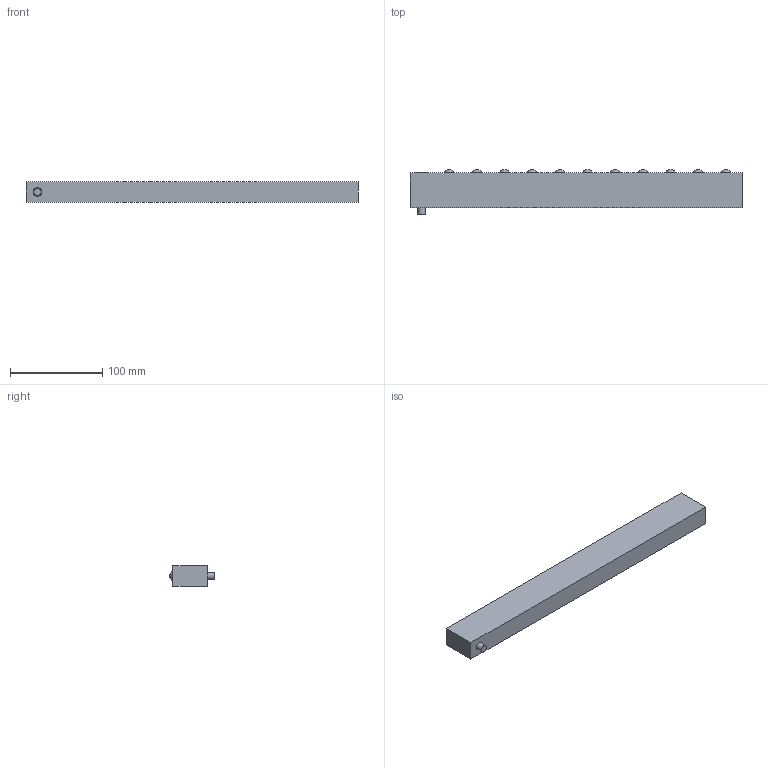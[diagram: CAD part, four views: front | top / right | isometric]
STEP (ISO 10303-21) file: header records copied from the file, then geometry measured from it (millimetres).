
FILE_DESCRIPTION(/* description */ (''),/* implementation_level */ '2;1');
FILE_NAME(/* name */ 'V:\Shrinkwrap\EMB\EMB - SHRINKWRAP\EMB22\EMB22-11_Shrinkwrap_1.stp',/* time_stamp */ '2022-08-12T10:36:34+02:00',/* author */ ('cw'),/* organization */ (''),/* preprocessor_version */ 'ST-DEVELOPER v17',/* originating_system */ 'Autodesk Inventor 2019',/* authorisation */ '');
FILE_SCHEMA (('AUTOMOTIVE_DESIGN { 1 0 10303 214 3 1 1 }'));
Length unit declared in the file: millimetre
Products named in the file (1): EMB22-11_Shrinkwrap_1
Bounding box: 360 x 48.46 x 21.8 mm (x, y, z)
Volume: 296107.1 mm3; surface area: 47274.6 mm2
Topology: 1 solids, 1 shells, 25 faces, 39 edges, 33 vertices
Faces by surface type: sphere 11, plane 10, cylinder 4
Full cylindrical faces by diameter (mm): 8 x1, 9 x1, 13 x1, 14 x1
Entity records: 679 total; most frequent: DIRECTION 110, CARTESIAN_POINT 96, ORIENTED_EDGE 74, AXIS2_PLACEMENT_3D 47, EDGE_LOOP 40, EDGE_CURVE 37, VERTEX_POINT 29, STYLED_ITEM 28
